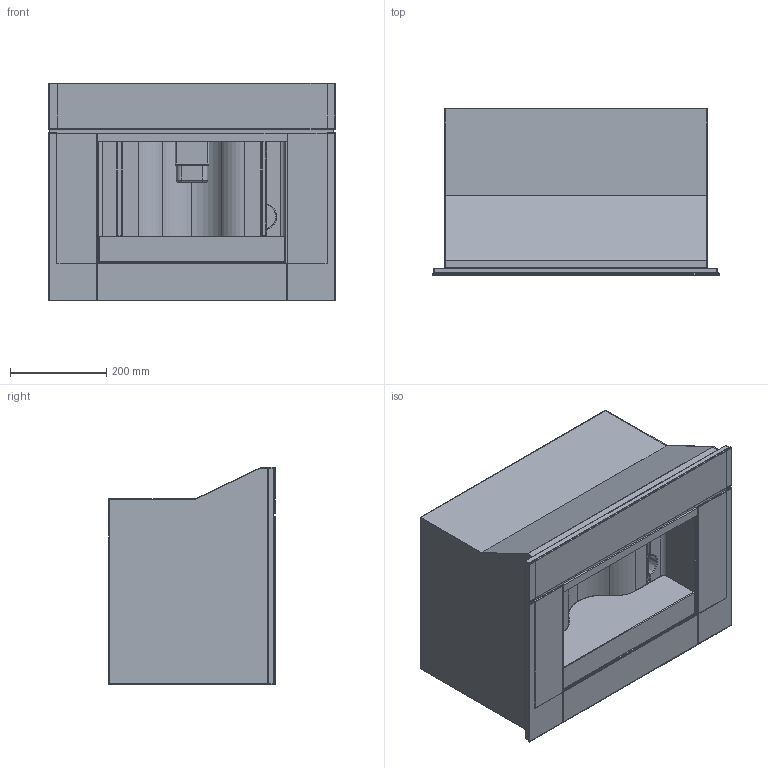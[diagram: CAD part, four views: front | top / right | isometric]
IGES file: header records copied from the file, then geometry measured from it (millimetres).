
Start section: SolidWorks IGES file using analytic representation for surfaces
Global section: file name: E:\001_FACELIFT NGVA3\ARHITEKTS\COFFEE MACHINE\465211_CMA9200UX\465211_CMA9200UX.IGS; native system: SolidWorks 2012; preprocessor: SolidWorks 2012; author: napot_mi; date: 151210.153300; units: millimetre
Bounding box: 595.06 x 345.99 x 451.91 mm (x, y, z)
Volume: 25793769.9 mm3; surface area: 3399042.6 mm2
Topology: 13 solids, 13 shells, 456 faces, 1038 edges, 589 vertices
Faces by surface type: revolution 190, plane 176, bspline 90
